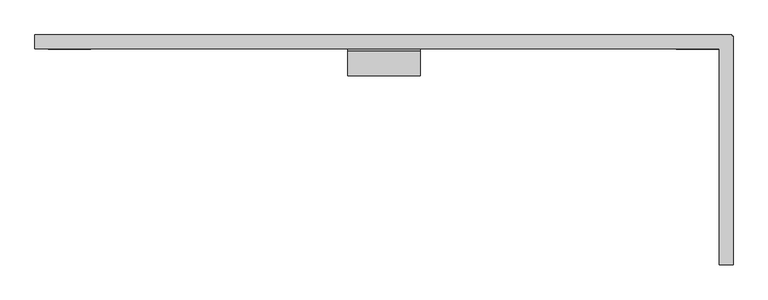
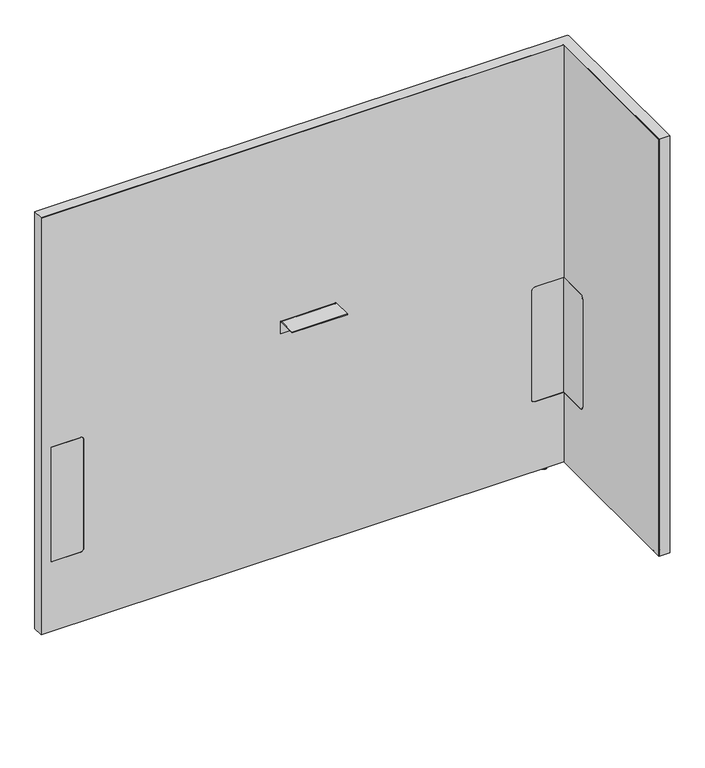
"""IFC4 building model written with IfcOpenShell, lengths in millimetres: furniture geometry, Steelcase - Answer Solution - Boundary Screen - L Return - Single Sided : 48H x 57W."""

from ifc_helpers import new_model, si_unit, point, frame, frame_2d, origin, place, context, project, spatial, polyline, circle_curve, ellipse_curve, trimmed, segment, composite_curve, outline, extrude, faceted_brep, source, transform, mapped, element, save
from ifc_brep_helpers import plane_surface, cylinder_surface, revolved_surface, advanced_brep


def furniture_460b894d(model_context):
    return source(origin(), model_context, "Body", "SolidModel", [
        extrude(outline(composite_curve([segment(polyline([(-109.3501471, 549.6162029), (-29.0550397, 549.6162029), (-29.0550397, 213.7762137), (-109.3501471, 213.7762137)]), True, "CONTINUOUS"), segment(trimmed(circle_curve(frame_2d((-109.3501471, 223.9362137)), 10.16), [point((-109.3501471, 213.7762137))], [point((-119.5101471, 223.9362137))], False, "CARTESIAN"), True, "CONTINUOUS"), segment(polyline([(-119.5101471, 223.9362137), (-119.5101471, 539.4562029)]), True, "CONTINUOUS"), segment(trimmed(circle_curve(frame_2d((-109.3501471, 539.4562029)), 10.16), [point((-119.5101471, 539.4562029))], [point((-109.3501471, 549.6162029))], False, "CARTESIAN"), True, "CONTINUOUS")], self_intersect=False)), frame((1677.6191891, 0.0, 0.0), z_axis=(1.0, 0.0, 0.0), x_axis=(0.0, 1.0, 0.0)), (0.0, 0.0, 1.0), 0.6401544),
        advanced_brep(
        [(1692.4672074, -448.0136072, 0.0), (1699.4216144, -448.0136072, 0.0), (1685.5128003, -448.0136072, 0.0), (1700.8762685, -448.0136072, 1.2700001), (1684.0581463, -448.0136072, 1.2700001), (1700.8762685, -448.0136072, 2.9673238), (1684.0581463, -448.0136072, 2.9673238), (1701.8427877, -448.0136072, 2.9673238), (1683.091627, -448.0136072, 2.9673238), (1701.8427877, -448.0136072, 9.9059849), (1683.091627, -448.0136072, 9.9059849), (1692.4672074, -448.0136072, 9.9059849)],
        [
            (0, 1),
            (1, 2, circle_curve(frame((1692.4672074, -448.0136072, 0.0), z_axis=(0.0, 0.0, -1.0), x_axis=(1.0, 0.0, 0.0)), 6.9544071)),
            (2, 0),
            (2, 1, circle_curve(frame((1692.4672074, -448.0136072, 0.0), z_axis=(0.0, 0.0, -1.0), x_axis=(1.0, 0.0, 0.0)), 6.9544071)),
            (1, 3, circle_curve(frame((1699.5945484, -448.0136072, 1.2700001), z_axis=(0.0, -1.0, 0.0), x_axis=(0.0, 0.0, 1.0)), 1.2817201)),
            (3, 4, circle_curve(frame((1692.4672074, -448.0136072, 1.2700001), z_axis=(0.0, 0.0, -1.0), x_axis=(1.0, 0.0, 0.0)), 8.4090611)),
            (4, 2, circle_curve(frame((1685.3398663, -448.0136072, 1.2700001), z_axis=(0.0, -1.0, 0.0), x_axis=(0.0, 0.0, 1.0)), 1.2817201)),
            (4, 3, circle_curve(frame((1692.4672074, -448.0136072, 1.2700001), z_axis=(0.0, 0.0, -1.0), x_axis=(1.0, 0.0, 0.0)), 8.4090611)),
            (3, 5),
            (5, 6, circle_curve(frame((1692.4672074, -448.0136072, 2.9673238), z_axis=(0.0, 0.0, -1.0), x_axis=(1.0, 0.0, 0.0)), 8.4090611)),
            (6, 4),
            (6, 5, circle_curve(frame((1692.4672074, -448.0136072, 2.9673238), z_axis=(0.0, 0.0, -1.0), x_axis=(1.0, 0.0, 0.0)), 8.4090611)),
            (5, 7),
            (7, 8, circle_curve(frame((1692.4672074, -448.0136072, 2.9673238), z_axis=(0.0, 0.0, -1.0), x_axis=(1.0, 0.0, 0.0)), 9.3755804)),
            (8, 6),
            (8, 7, circle_curve(frame((1692.4672074, -448.0136072, 2.9673238), z_axis=(0.0, 0.0, -1.0), x_axis=(1.0, 0.0, 0.0)), 9.3755804)),
            (7, 9),
            (9, 10, circle_curve(frame((1692.4672074, -448.0136072, 9.9059849), z_axis=(0.0, 0.0, -1.0), x_axis=(1.0, 0.0, 0.0)), 9.3755804)),
            (10, 8),
            (10, 9, circle_curve(frame((1692.4672074, -448.0136072, 9.9059849), z_axis=(0.0, 0.0, -1.0), x_axis=(1.0, 0.0, 0.0)), 9.3755804)),
            (9, 11),
            (11, 10),
        ],
        [
            plane_surface(frame((1692.4672074, -448.0136072, 0.0), z_axis=(0.0, 0.0, -1.0), x_axis=(1.0, 0.0, 0.0))),
            revolved_surface(trimmed(ellipse_curve(frame((1699.5945484, -448.0136072, 1.2700001), z_axis=(0.0, 1.0, 0.0), x_axis=(0.0, 0.0, 1.0)), 1.2817201, 1.2817201), [point((1700.8762685, -448.0136072, 1.2700001))], [point((1699.4216144, -448.0136072, 0.0))], True, "CARTESIAN"), (1692.4672074, -448.0136072, 9.9059849), (0.0, 0.0, -1.0)),
            cylinder_surface(frame((1692.4672074, -448.0136072, 9.9059849), z_axis=(0.0, 0.0, -1.0), x_axis=(1.0, 0.0, 0.0)), 8.4090611),
            plane_surface(frame((1692.4672074, -448.0136072, 2.9673238), z_axis=(0.0, 0.0, -1.0), x_axis=(1.0, 0.0, 0.0))),
            cylinder_surface(frame((1692.4672074, -448.0136072, 9.9059849), z_axis=(0.0, 0.0, -1.0), x_axis=(1.0, 0.0, 0.0)), 9.3755804),
            plane_surface(frame((1692.4672074, -448.0136072, 9.9059849), z_axis=(0.0, 0.0, 1.0), x_axis=(1.0, 0.0, 0.0))),
        ],
        [
            (0, [[1, 2, 3]]),
            (0, [[-3, 4, -1]]),
            (1, [[-2, 5, 6, 7]]),
            (1, [[-4, -7, 8, -5]]),
            (2, [[-6, 9, 10, 11]]),
            (2, [[-8, -11, 12, -9]]),
            (3, [[-10, 13, 14, 15]]),
            (3, [[-12, -15, 16, -13]]),
            (4, [[-14, 17, 18, 19]]),
            (4, [[-16, -19, 20, -17]]),
            (5, [[-18, 21, 22]]),
            (5, [[-20, -22, -21]]),
        ],
    ),
        faceted_brep([(1704.0531179, 0.0, 1230.122), (1704.0531179, 0.0, 9.9059849), (1703.0621491, 0.0, 9.9059849), (1703.0621491, 0.0, 1229.142118), (230.8097779, 0.0, 1229.142118), (230.8097779, 0.0, 9.9059849), (229.8191891, 0.0, 9.9059849), (229.8191891, 0.0, 1230.122), (229.8191891, -29.6898332, 1230.122), (229.8191891, -29.6898332, 9.9059849), (230.8097779, -29.6898332, 9.9059849), (230.8097779, -29.6898332, 1229.142118), (1677.6191891, -29.6898332, 1229.142118), (1677.6191891, -29.6898332, 1230.122), (1703.0621491, -29.6898332, 1229.142118), (1703.0621491, -29.6898332, 9.9059849), (1704.0531179, -29.6898332, 9.9059849), (1704.0531179, -29.6898332, 1229.142118), (1704.0531179, -3.2625916, 1230.122), (1704.0531179, -3.2625916, 9.9059849), (1704.0531179, -4.252647, 9.9059849), (1704.0531179, -4.252647, 1229.142118), (1707.3152256, -3.2625916, 9.9059849), (1707.3152256, -4.252647, 9.9059849), (1703.0621491, -4.252647, 9.9059849), (1677.6191891, -4.252647, 9.9059849), (1677.6191891, -3.2625916, 9.9059849), (1703.0621491, -3.2625916, 9.9059849), (1677.6191891, -486.8898332, 1230.122), (1707.3152256, -486.8898332, 1230.122), (1707.3152256, -3.2625916, 1230.122), (1703.0621491, -3.2625916, 1229.142118), (1703.0621491, -4.252647, 1229.142118), (1677.6191891, -3.2625916, 1229.142118), (1677.6191891, -4.252647, 1229.142118), (1707.3152256, -4.252647, 1229.142118), (1707.3152256, -485.899196, 1229.142118), (1677.6191891, -485.899196, 1229.142118), (1677.6191891, -485.899196, 9.9059849), (1677.6191891, -486.8898332, 9.9059849), (1707.3152256, -486.8898332, 9.9059849), (1707.3152256, -485.899196, 9.9059849)], [[[0, 1, 2, 3, 4, 5, 6, 7]], [[8, 9, 10, 11, 12, 13]], [[14, 15, 16, 17]], [[1, 0, 18, 19]], [[17, 16, 20, 21]], [[2, 1, 19, 22, 23, 20, 16, 15, 24, 25, 26, 27]], [[7, 6, 9, 8]], [[0, 7, 8, 13, 28, 29, 30, 18]], [[3, 2, 27, 31]], [[15, 14, 32, 24]], [[4, 3, 31, 33, 34, 32, 14, 17, 21, 35, 36, 37, 12, 11]], [[5, 4, 11, 10]], [[6, 5, 10, 9]], [[26, 25, 34, 33]], [[37, 38, 39, 28, 13, 12]], [[29, 40, 41, 36, 35, 23, 22, 30]], [[27, 26, 33, 31]], [[30, 22, 19, 18]], [[34, 25, 24, 32]], [[23, 35, 21, 20]], [[38, 37, 36, 41]], [[39, 38, 41, 40]], [[28, 39, 40, 29]]]),
        extrude(outline(composite_curve([segment(polyline([(-86.8398151, 696.4680019), (-86.8398151, 698.5), (-34.9450855, 698.5)]), True, "CONTINUOUS"), segment(trimmed(circle_curve(frame_2d((-34.9450855, 693.2447477)), 5.2552523), [point((-34.9450855, 698.5))], [point((-29.6898332, 693.2447477))], False, "CARTESIAN"), True, "CONTINUOUS"), segment(polyline([(-29.6898332, 693.2447477), (-29.6898332, 660.4), (-31.7218162, 660.4), (-31.7218162, 693.0058743)]), True, "CONTINUOUS"), segment(trimmed(circle_curve(frame_2d((-35.1839438, 693.0058743)), 3.4621276), [point((-31.7218162, 693.0058743))], [point((-35.1839438, 696.4680019))], True, "CARTESIAN"), True, "CONTINUOUS"), segment(polyline([(-35.1839438, 696.4680019), (-86.8398151, 696.4680019)]), True, "CONTINUOUS")], self_intersect=False)), frame((892.3685899, 0.0, 0.0), z_axis=(1.0, 0.0, 0.0), x_axis=(0.0, 1.0, 0.0)), (0.0, 0.0, 1.0), 152.4000969),
        advanced_brep(
        [(1630.1246853, -23.7588726, 9.9059849), (1630.1246853, -5.9309607, 9.9059849), (1630.1246853, -14.8449166, 9.9059849), (1630.1246853, -23.7588726, 2.9673238), (1630.1246853, -5.9309607, 2.9673238), (1630.1246853, -22.7915354, 2.9673238), (1630.1246853, -6.8982978, 2.9673238), (1630.1246853, -22.7915354, 1.6569081), (1630.1246853, -6.8982978, 1.6569081), (1630.1246853, -21.1346274, 0.0), (1630.1246853, -8.5552059, 0.0), (1630.1246853, -14.8449166, 0.0)],
        [
            (0, 1, circle_curve(frame((1630.1246853, -14.8449166, 9.9059849), z_axis=(0.0, 0.0, 1.0), x_axis=(0.0, 1.0, 0.0)), 8.913956)),
            (1, 2),
            (2, 0),
            (1, 0, circle_curve(frame((1630.1246853, -14.8449166, 9.9059849), z_axis=(0.0, 0.0, 1.0), x_axis=(0.0, 1.0, 0.0)), 8.913956)),
            (3, 4, circle_curve(frame((1630.1246853, -14.8449166, 2.9673238), z_axis=(0.0, 0.0, 1.0), x_axis=(0.0, 1.0, 0.0)), 8.913956)),
            (4, 1),
            (0, 3),
            (4, 3, circle_curve(frame((1630.1246853, -14.8449166, 2.9673238), z_axis=(0.0, 0.0, 1.0), x_axis=(0.0, 1.0, 0.0)), 8.913956)),
            (5, 6, circle_curve(frame((1630.1246853, -14.8449166, 2.9673238), z_axis=(0.0, 0.0, 1.0), x_axis=(0.0, 1.0, 0.0)), 7.9466188)),
            (6, 4),
            (3, 5),
            (6, 5, circle_curve(frame((1630.1246853, -14.8449166, 2.9673238), z_axis=(0.0, 0.0, 1.0), x_axis=(0.0, 1.0, 0.0)), 7.9466188)),
            (7, 8, circle_curve(frame((1630.1246853, -14.8449166, 1.6569081), z_axis=(0.0, 0.0, 1.0), x_axis=(0.0, 1.0, 0.0)), 7.9466188)),
            (8, 6),
            (5, 7),
            (8, 7, circle_curve(frame((1630.1246853, -14.8449166, 1.6569081), z_axis=(0.0, 0.0, 1.0), x_axis=(0.0, 1.0, 0.0)), 7.9466188)),
            (9, 10, circle_curve(frame((1630.1246853, -14.8449166, 0.0), z_axis=(0.0, 0.0, 1.0), x_axis=(0.0, 1.0, 0.0)), 6.2897107)),
            (10, 8, circle_curve(frame((1630.1246853, -8.5552059, 1.6569081), z_axis=(1.0, 0.0, 0.0), x_axis=(0.0, 1.0, 0.0)), 1.6569081)),
            (7, 9, circle_curve(frame((1630.1246853, -21.1346274, 1.6569081), z_axis=(1.0, 0.0, 0.0), x_axis=(0.0, -1.0, 0.0)), 1.6569081)),
            (10, 9, circle_curve(frame((1630.1246853, -14.8449166, 0.0), z_axis=(0.0, 0.0, 1.0), x_axis=(0.0, 1.0, 0.0)), 6.2897107)),
            (11, 10),
            (9, 11),
        ],
        [
            plane_surface(frame((1630.1246853, -14.8449166, 9.9059849), z_axis=(0.0, 0.0, 1.0), x_axis=(0.0, 1.0, 0.0))),
            cylinder_surface(frame((1630.1246853, -14.8449166, 9.9059849), z_axis=(0.0, 0.0, -1.0), x_axis=(0.0, 1.0, 0.0)), 8.913956),
            plane_surface(frame((1630.1246853, -14.8449166, 2.9673238), z_axis=(0.0, 0.0, -1.0), x_axis=(0.0, 1.0, 0.0))),
            cylinder_surface(frame((1630.1246853, -14.8449166, 9.9059849), z_axis=(0.0, 0.0, -1.0), x_axis=(0.0, 1.0, 0.0)), 7.9466188),
            revolved_surface(trimmed(ellipse_curve(frame((1630.1246853, -8.5552059, 1.6569081), z_axis=(-1.0, 0.0, 0.0), x_axis=(0.0, 1.0, 0.0)), 1.6569081, 1.6569081), [point((1630.1246853, -6.8982978, 1.6569081))], [point((1630.1246853, -8.5552059, 0.0))], True, "CARTESIAN"), (1630.1246853, -14.8449166, 9.9059849), (0.0, 0.0, -1.0)),
            plane_surface(frame((1630.1246853, -14.8449166, 0.0), z_axis=(0.0, 0.0, -1.0), x_axis=(0.0, 1.0, 0.0))),
        ],
        [
            (0, [[1, 2, 3]]),
            (0, [[4, -3, -2]]),
            (1, [[5, 6, -1, 7]]),
            (1, [[8, -7, -4, -6]]),
            (2, [[9, 10, -5, 11]]),
            (2, [[12, -11, -8, -10]]),
            (3, [[13, 14, -9, 15]]),
            (3, [[16, -15, -12, -14]]),
            (4, [[17, 18, -13, 19]]),
            (4, [[20, -19, -16, -18]]),
            (5, [[21, -17, 22]]),
            (5, [[-22, -20, -21]]),
        ],
    ),
        advanced_brep(
        [(230.8097779, 0.0, 1229.142118), (1703.0621491, 0.0, 1229.142118), (1703.0621491, 0.0, 9.9059849), (230.8097779, 0.0, 9.9059849), (347.9483813, -29.0550397, 539.4562029), (337.7883813, -29.0550397, 549.6162029), (258.1344836, -29.0550397, 549.6162029), (258.1344836, -29.0550397, 213.7762137), (337.7883813, -29.0550397, 213.7762137), (347.9483813, -29.0550397, 223.9362137), (1678.2593435, -29.0550397, 213.7762137), (1678.2593435, -29.0550397, 549.6162029), (1597.7109268, -29.0550397, 549.6162029), (1587.5509268, -29.0550397, 539.4562029), (1587.5509268, -29.0550397, 223.9362137), (1597.7109268, -29.0550397, 213.7762137), (230.8097779, -29.6898332, 1229.142118), (230.8097779, -29.6898332, 9.9059849), (1677.6191891, -29.6898332, 9.9059849), (1677.6191891, -29.6898332, 213.7762137), (1597.7109268, -29.6898332, 213.7762137), (1587.5509268, -29.6898332, 223.9362137), (1587.5509268, -29.6898332, 539.4562029), (1597.7109268, -29.6898332, 549.6162029), (1677.6191891, -29.6898332, 549.6162029), (1677.6191891, -29.6898332, 1229.142118), (337.7883813, -29.6898332, 549.6162029), (347.9483813, -29.6898332, 539.4562029), (347.9483813, -29.6898332, 223.9362137), (337.7883813, -29.6898332, 213.7762137), (258.1344836, -29.6898332, 213.7762137), (258.1344836, -29.6898332, 549.6162029), (1703.0621491, -4.252647, 9.9059849), (1707.3152256, -4.252647, 9.9059849), (1707.3152256, -485.899196, 9.9059849), (1677.6191891, -485.899196, 9.9059849), (1703.0621491, -4.252647, 1229.142118), (1677.6191891, -485.899196, 1229.142118), (1707.3152256, -485.899196, 1229.142118), (1707.3152256, -4.252647, 1229.142118), (1678.2593435, -109.3501471, 549.6162029), (1677.6191891, -109.3501471, 549.6162029), (1678.2593435, -109.3501471, 213.7762137), (1678.2593435, -119.5101471, 223.9362137), (1678.2593435, -119.5101471, 539.4562029), (1677.6191891, -109.3501471, 213.7762137), (1677.6191891, -119.5101471, 539.4562029), (1677.6191891, -119.5101471, 223.9362137)],
        [
            (0, 1),
            (1, 2),
            (2, 3),
            (3, 0),
            (4, 5, circle_curve(frame((337.7883813, -29.0550397, 539.4562029), z_axis=(0.0, -1.0, 0.0), x_axis=(0.0, 0.0, 1.0)), 10.16)),
            (5, 6),
            (6, 7),
            (7, 8),
            (8, 9, circle_curve(frame((337.7883813, -29.0550397, 223.9362137), z_axis=(0.0, -1.0, 0.0), x_axis=(0.0, 0.0, 1.0)), 10.16)),
            (9, 4),
            (10, 11),
            (11, 12),
            (12, 13, circle_curve(frame((1597.7109268, -29.0550397, 539.4562029), z_axis=(0.0, -1.0, 0.0), x_axis=(0.0, 0.0, 1.0)), 10.16)),
            (13, 14),
            (14, 15, circle_curve(frame((1597.7109268, -29.0550397, 223.9362137), z_axis=(0.0, -1.0, 0.0), x_axis=(0.0, 0.0, 1.0)), 10.16)),
            (15, 10),
            (16, 17),
            (17, 18),
            (18, 19),
            (19, 20),
            (20, 21, circle_curve(frame((1597.7109268, -29.6898332, 223.9362137), z_axis=(0.0, 1.0, 0.0), x_axis=(0.0, 0.0, 1.0)), 10.16)),
            (21, 22),
            (22, 23, circle_curve(frame((1597.7109268, -29.6898332, 539.4562029), z_axis=(0.0, 1.0, 0.0), x_axis=(0.0, 0.0, 1.0)), 10.16)),
            (23, 24),
            (24, 25),
            (25, 16),
            (26, 27, circle_curve(frame((337.7883813, -29.6898332, 539.4562029), z_axis=(0.0, 1.0, 0.0), x_axis=(0.0, 0.0, 1.0)), 10.16)),
            (27, 28),
            (28, 29, circle_curve(frame((337.7883813, -29.6898332, 223.9362137), z_axis=(0.0, 1.0, 0.0), x_axis=(0.0, 0.0, 1.0)), 10.16)),
            (29, 30),
            (30, 31),
            (31, 26),
            (16, 0),
            (3, 17),
            (2, 32),
            (32, 33),
            (33, 34),
            (34, 35),
            (35, 18),
            (1, 36),
            (36, 32),
            (25, 37),
            (37, 38),
            (38, 39),
            (39, 36),
            (26, 5),
            (4, 27),
            (9, 28),
            (8, 29),
            (7, 30),
            (6, 31),
            (11, 40),
            (40, 41),
            (41, 24),
            (23, 12),
            (42, 43, circle_curve(frame((1678.2593435, -109.3501471, 223.9362137), z_axis=(-1.0, 0.0, 0.0), x_axis=(0.0, 1.0, 0.0)), 10.16)),
            (43, 44),
            (44, 40, circle_curve(frame((1678.2593435, -109.3501471, 539.4562029), z_axis=(-1.0, 0.0, 0.0), x_axis=(0.0, 1.0, 0.0)), 10.16)),
            (10, 42),
            (15, 20),
            (19, 45),
            (45, 42),
            (14, 21),
            (13, 22),
            (35, 37),
            (41, 46, circle_curve(frame((1677.6191891, -109.3501471, 539.4562029), z_axis=(1.0, 0.0, 0.0), x_axis=(0.0, 1.0, 0.0)), 10.16)),
            (46, 47),
            (47, 45, circle_curve(frame((1677.6191891, -109.3501471, 223.9362137), z_axis=(1.0, 0.0, 0.0), x_axis=(0.0, 1.0, 0.0)), 10.16)),
            (38, 34),
            (33, 39),
            (44, 46),
            (43, 47),
        ],
        [
            plane_surface(frame((347.9483813, 0.0, 549.6162029), z_axis=(0.0, 1.0, 0.0), x_axis=(0.0, 0.0, -1.0))),
            plane_surface(frame((347.9483813, -29.0550397, 549.6162029), z_axis=(0.0, -1.0, 0.0), x_axis=(0.0, 0.0, 1.0))),
            plane_surface(frame((1703.0621491, -29.6898332, 1229.142118), z_axis=(0.0, -1.0, 0.0), x_axis=(-1.0, 0.0, 0.0))),
            plane_surface(frame((230.8097779, 0.0, 9.9059849), z_axis=(-1.0, 0.0, 0.0), x_axis=(0.0, -1.0, 0.0))),
            plane_surface(frame((1703.0621491, 0.0, 9.9059849), z_axis=(0.0, 0.0, -1.0), x_axis=(0.0, -1.0, 0.0))),
            plane_surface(frame((1703.0621491, 0.0, 1229.142118), z_axis=(1.0, 0.0, 0.0), x_axis=(0.0, -1.0, 0.0))),
            plane_surface(frame((230.8097779, 0.0, 1229.142118), z_axis=(0.0, 0.0, 1.0), x_axis=(0.0, -1.0, 0.0))),
            revolved_surface(polyline([(337.7883813, -29.6898332, 549.6162029), (337.7883813, -29.0550397, 549.6162029)]), (337.7883813, -29.6898332, 539.4562029), (0.0, -1.0, 0.0)),
            plane_surface(frame((347.9483813, 0.0, 223.9362137), z_axis=(-1.0, 0.0, 0.0), x_axis=(0.0, -1.0, 0.0))),
            revolved_surface(polyline([(337.7883813, -29.6898332, 234.0962137), (337.7883813, -29.0550397, 234.0962137)]), (337.7883813, -29.6898332, 223.9362137), (0.0, -1.0, 0.0)),
            plane_surface(frame((258.1344836, 0.0, 213.7762137), z_axis=(0.0, 0.0, 1.0), x_axis=(0.0, -1.0, 0.0))),
            plane_surface(frame((258.1344836, 0.0, 549.6162029), z_axis=(1.0, 0.0, 0.0), x_axis=(0.0, -1.0, 0.0))),
            plane_surface(frame((337.7883813, 0.0, 549.6162029), z_axis=(0.0, 0.0, -1.0), x_axis=(0.0, -1.0, 0.0))),
            plane_surface(frame((1678.2593435, 0.0, 549.6162029), z_axis=(0.0, 0.0, -1.0), x_axis=(0.0, -1.0, 0.0))),
            plane_surface(frame((1678.2593435, 0.0, 213.7762137), z_axis=(-1.0, 0.0, 0.0), x_axis=(0.0, -1.0, 0.0))),
            plane_surface(frame((1597.7109268, 0.0, 213.7762137), z_axis=(0.0, 0.0, 1.0), x_axis=(0.0, -1.0, 0.0))),
            revolved_surface(polyline([(1597.7109268, -29.6898332, 234.0962137), (1597.7109268, -29.0550397, 234.0962137)]), (1597.7109268, -29.6898332, 223.9362137), (0.0, -1.0, 0.0)),
            plane_surface(frame((1587.5509268, 0.0, 539.4562029), z_axis=(1.0, 0.0, 0.0), x_axis=(0.0, -1.0, 0.0))),
            revolved_surface(polyline([(1597.7109268, -29.6898332, 549.6162029), (1597.7109268, -29.0550397, 549.6162029)]), (1597.7109268, -29.6898332, 539.4562029), (0.0, -1.0, 0.0)),
            plane_surface(frame((1677.6191891, -485.899196, 1229.142118), z_axis=(-1.0, 0.0, 0.0), x_axis=(0.0, 0.0, 1.0))),
            plane_surface(frame((1707.3152256, -485.899196, 1229.142118), z_axis=(1.0, 0.0, 0.0), x_axis=(0.0, 0.0, -1.0))),
            plane_surface(frame((1707.3152256, -4.252647, 9.9059849), z_axis=(0.0, 1.0, 0.0), x_axis=(-1.0, 0.0, 0.0))),
            plane_surface(frame((1707.3152256, -485.899196, 1229.142118), z_axis=(0.0, -1.0, 0.0), x_axis=(-1.0, 0.0, 0.0))),
            revolved_surface(polyline([(1677.6191891, -99.1901471, 539.4562029), (1678.2593435, -99.1901471, 539.4562029)]), (-340.6902705, -109.3501471, 539.4562029), (-1.0, 0.0, 0.0)),
            plane_surface(frame((1707.3152256, -119.5101471, 223.9362137), z_axis=(0.0, 1.0, 0.0), x_axis=(-1.0, 0.0, 0.0))),
            revolved_surface(polyline([(1677.6191891, -99.1901471, 223.9362137), (1678.2593435, -99.1901471, 223.9362137)]), (-340.6902705, -109.3501471, 223.9362137), (-1.0, 0.0, 0.0)),
        ],
        [
            (0, [[1, 2, 3, 4]]),
            (1, [[5, 6, 7, 8, 9, 10]]),
            (1, [[11, 12, 13, 14, 15, 16]]),
            (2, [[17, 18, 19, 20, 21, 22, 23, 24, 25, 26], [27, 28, 29, 30, 31, 32]]),
            (3, [[-17, 33, -4, 34]]),
            (4, [[-3, 35, 36, 37, 38, 39, -18, -34]]),
            (5, [[-2, 40, 41, -35]]),
            (6, [[-1, -33, -26, 42, 43, 44, 45, -40]]),
            (7, [[-27, 46, -5, 47]]),
            (8, [[-28, -47, -10, 48]]),
            (9, [[-29, -48, -9, 49]]),
            (10, [[-30, -49, -8, 50]]),
            (11, [[-31, -50, -7, 51]]),
            (12, [[-32, -51, -6, -46]]),
            (13, [[52, 53, 54, -24, 55, -12]]),
            (14, [[56, 57, 58, -52, -11, 59]]),
            (15, [[-59, -16, 60, -20, 61, 62]]),
            (16, [[-21, -60, -15, 63]]),
            (17, [[-22, -63, -14, 64]]),
            (18, [[-23, -64, -13, -55]]),
            (19, [[65, -42, -25, -54, 66, 67, 68, -61, -19, -39]]),
            (20, [[69, -37, 70, -44]]),
            (21, [[-70, -36, -41, -45]]),
            (22, [[-65, -38, -69, -43]]),
            (23, [[-66, -53, -58, 71]]),
            (24, [[-67, -71, -57, 72]]),
            (25, [[-68, -72, -56, -62]]),
        ],
    ),
        extrude(outline(composite_curve([segment(polyline([(549.6162029, 337.7883813), (549.6162029, 258.1344836), (213.7762137, 258.1344836), (213.7762137, 337.7883813)]), True, "CONTINUOUS"), segment(trimmed(circle_curve(frame_2d((223.9362137, 337.7883813)), 10.16), [point((213.7762137, 337.7883813))], [point((223.9362137, 347.9483813))], False, "CARTESIAN"), True, "CONTINUOUS"), segment(polyline([(223.9362137, 347.9483813), (539.4562029, 347.9483813)]), True, "CONTINUOUS"), segment(trimmed(circle_curve(frame_2d((539.4562029, 337.7883813)), 10.16), [point((539.4562029, 347.9483813))], [point((549.6162029, 337.7883813))], False, "CARTESIAN"), True, "CONTINUOUS")], self_intersect=False)), frame((0.0, -29.6898332, 0.0), z_axis=(0.0, 1.0, 0.0), x_axis=(0.0, 0.0, 1.0)), (0.0, 0.0, 1.0), 0.6347935),
        extrude(outline(composite_curve([segment(trimmed(circle_curve(frame_2d((539.4562029, 1597.7109268)), 10.16), [point((549.6162029, 1597.7109268))], [point((539.4562029, 1587.5509268))], False, "CARTESIAN"), True, "CONTINUOUS"), segment(polyline([(539.4562029, 1587.5509268), (223.9362137, 1587.5509268)]), True, "CONTINUOUS"), segment(trimmed(circle_curve(frame_2d((223.9362137, 1597.7109268)), 10.16), [point((223.9362137, 1587.5509268))], [point((213.7762137, 1597.7109268))], False, "CARTESIAN"), True, "CONTINUOUS"), segment(polyline([(213.7762137, 1597.7109268), (213.7762137, 1677.6191891), (549.6162029, 1677.6191891), (549.6162029, 1597.7109268)]), True, "CONTINUOUS")], self_intersect=False)), frame((0.0, -29.6898332, 0.0), z_axis=(0.0, 1.0, 0.0), x_axis=(0.0, 0.0, 1.0)), (0.0, 0.0, 1.0), 0.6347935),
    ])


if __name__ == "__main__":
    model = new_model("IFC4")
    model_context = context("Model", 3, world=origin())
    ifc_project = project(units=[si_unit("LENGTHUNIT", "METRE", prefix="MILLI")], contexts=[model_context])
    site = spatial("IfcSite", under=ifc_project)
    building = spatial("IfcBuilding", under=site)
    placement = place(None, origin())
    furniture_shape = furniture_460b894d(model_context)
    element("IfcFurniture", 1, ObjectType="Steelcase - Answer Solution - Boundary Screen - L Return - Single Sided : 48H x 57W", at=placement, inside=building, context=model_context, shape_type="MappedRepresentation", body=[
        mapped(furniture_shape, transform((0.0, 0.0, 0.0), x_axis=(1.0, 0.0, 0.0), y_axis=(0.0, 1.0, 0.0), z_axis=(0.0, 0.0, 1.0))),
    ])
    save(model, "model.ifc")
